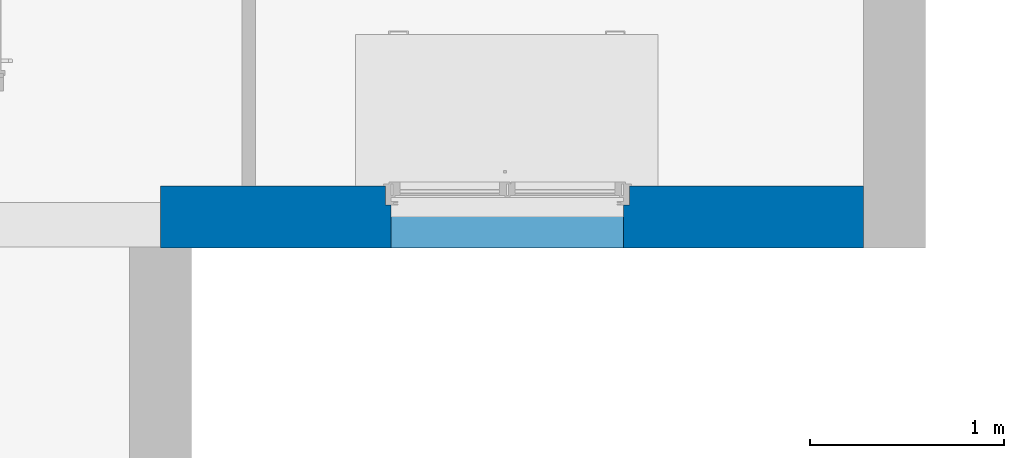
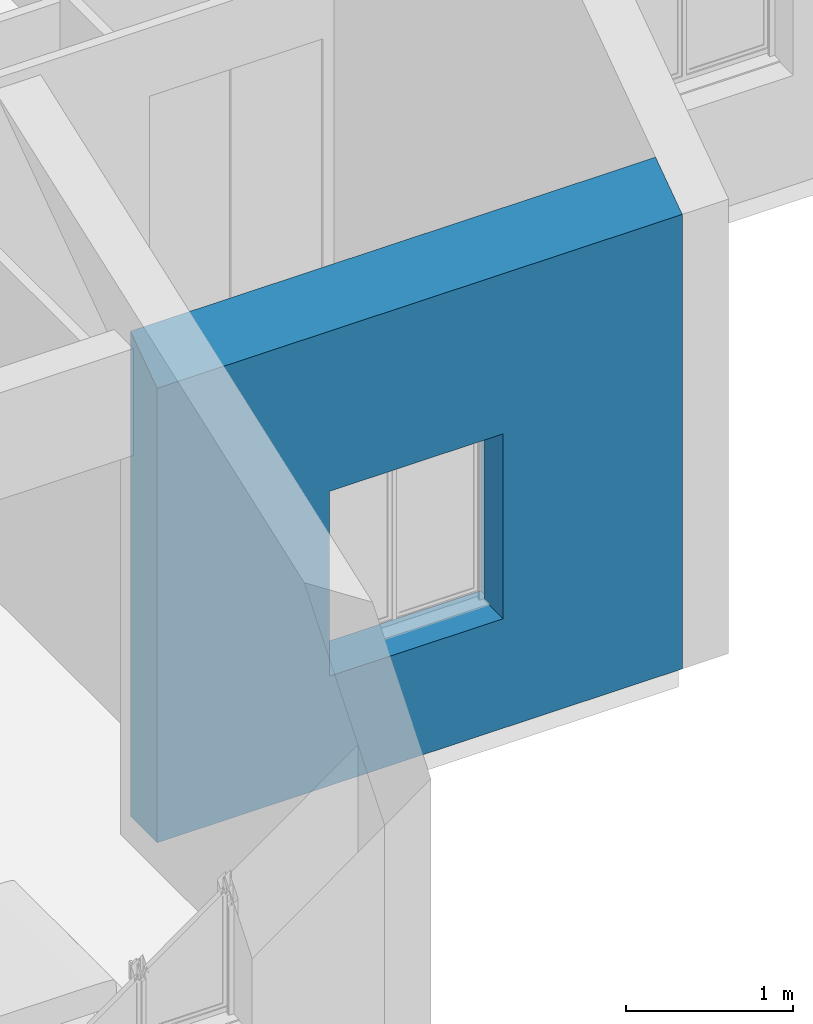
# One storey, part 15 of 61: 1 wall, 1 opening.
"""IFC2X3 building model written with IfcOpenShell, lengths in metres."""

from ifc_helpers import new_model, entity, si_unit, converted_unit, derived_unit, direction, frame, frame_2d, origin, place, context, subcontext, project, spatial, polyline, rectangle, extrude, clip, bounded_halfspace, faceted_brep, material, layer, layer_set, layer_usage, type_object, element, save


model = new_model("IFC2X3")

# Units and contexts
model_context = context("Model", 3, precision=1e-05, world=origin(), true_north=direction((6.12303176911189e-17, 1.0)))
body_context = subcontext(model_context, "Body", "Model", "MODEL_VIEW")
ifc_project = project(units=[si_unit("LENGTHUNIT", "METRE"), si_unit("AREAUNIT", "SQUARE_METRE"), si_unit("VOLUMEUNIT", "CUBIC_METRE"), converted_unit("PLANEANGLEUNIT", "DEGREE", entity("IfcRatioMeasure", 0.0174532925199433), si_unit("PLANEANGLEUNIT", "RADIAN"), dimensions=[0, 0, 0, 0, 0, 0, 0]), si_unit("MASSUNIT", "GRAM", prefix="KILO"), derived_unit("MASSDENSITYUNIT", [(si_unit("MASSUNIT", "GRAM", prefix="KILO"), 1), (si_unit("LENGTHUNIT", "METRE"), -3)]), si_unit("TIMEUNIT", "SECOND"), si_unit("FREQUENCYUNIT", "HERTZ"), si_unit("THERMODYNAMICTEMPERATUREUNIT", "DEGREE_CELSIUS"), derived_unit("THERMALTRANSMITTANCEUNIT", [(si_unit("MASSUNIT", "GRAM", prefix="KILO"), 1), (si_unit("THERMODYNAMICTEMPERATUREUNIT", "KELVIN"), -1), (si_unit("TIMEUNIT", "SECOND"), -3)]), derived_unit("VOLUMETRICFLOWRATEUNIT", [(si_unit("LENGTHUNIT", "METRE"), 3), (si_unit("TIMEUNIT", "SECOND"), -1)]), si_unit("ELECTRICCURRENTUNIT", "AMPERE"), si_unit("ELECTRICVOLTAGEUNIT", "VOLT"), si_unit("POWERUNIT", "WATT"), si_unit("FORCEUNIT", "NEWTON", prefix="KILO"), si_unit("ILLUMINANCEUNIT", "LUX"), si_unit("LUMINOUSFLUXUNIT", "LUMEN"), si_unit("LUMINOUSINTENSITYUNIT", "CANDELA"), derived_unit("USERDEFINED", [(si_unit("MASSUNIT", "GRAM", prefix="KILO"), -1), (si_unit("LENGTHUNIT", "METRE"), -2), (si_unit("TIMEUNIT", "SECOND"), 3), (si_unit("LUMINOUSFLUXUNIT", "LUMEN"), 1)]), derived_unit("LINEARVELOCITYUNIT", [(si_unit("LENGTHUNIT", "METRE"), 1), (si_unit("TIMEUNIT", "SECOND"), -1)]), si_unit("PRESSUREUNIT", "PASCAL"), derived_unit("USERDEFINED", [(si_unit("LENGTHUNIT", "METRE"), -2), (si_unit("MASSUNIT", "GRAM", prefix="KILO"), 1), (si_unit("TIMEUNIT", "SECOND"), -2)])], contexts=[model_context])

# Site, building, storey
site_placement = place(None, origin())
site = spatial("IfcSite", under=ifc_project, at=site_placement, Name="Surface", CompositionType="ELEMENT")
building_placement = place(site_placement, origin())
building = spatial("IfcBuilding", under=site, at=building_placement, CompositionType="ELEMENT")
storey_placement = place(building_placement, frame((0.0, 0.0, 2.82)))
storey = spatial("IfcBuildingStorey", under=building, at=storey_placement, Name="ETAGE", CompositionType="ELEMENT", Elevation=2.82)

# Wall, opening
ifc_material_1 = material(Name="Enduit blanc cassé2")
ifc_layer_1 = layer(ifc_material_1, 0.02)
ifc_material_2 = material(Name="Parpaing")
ifc_layer_2 = layer(ifc_material_2, 0.2)
ifc_material_3 = material(Name="Isolant")
ifc_layer_3 = layer(ifc_material_3, 0.1)
ifc_layer_set = layer_set([ifc_layer_1, ifc_layer_2, ifc_layer_3], Name="Mur de base:Ext. Parpaing 20 + Isolant 10 enduit blanc cassé")
ifc_layer_usage = layer_usage(ifc_layer_set, "AXIS2", "NEGATIVE", 0.16)
wall_type = type_object("IfcWallType", Name="Mur de base:Ext. Parpaing 20 + Isolant 10 enduit blanc cassé", PredefinedType="STANDARD", material=ifc_layer_set)
wall_placement = place(storey_placement, frame((75.962889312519, 80.0477566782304, 0.0), z_axis=(0.0, 0.0, 1.0), x_axis=(-1.0, 0.0, 0.0)))
wall = element("IfcWallStandardCase", 1, at=wall_placement, inside=storey, type_object=wall_type, material=ifc_layer_usage, Name="Mur de base:Ext. Parpaing 20 + Isolant 10 enduit blanc cassé", ObjectType="Mur de base:Ext. Parpaing 20 + Isolant 10 enduit blanc cassé", context=body_context, shape_type="Clipping", body=[
    clip(extrude(rectangle(XDim=3.62826294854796, YDim=0.319999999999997, at=frame_2d((1.81413147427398, -1.08246744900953e-15), x_axis=(-1.0, 0.0))), origin(), (0.0, 0.0, 1.0), 3.54406641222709), bounded_halfspace(frame((0.0, -0.159999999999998, 3.54406641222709), z_axis=(0.0, 0.573576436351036, 0.819152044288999), x_axis=(-1.0, 0.0, 0.0)), False, frame((0.0, -0.159999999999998, 3.54406641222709)), polyline([(0.0, 0.0), (3.62826294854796, 0.0), (3.62826294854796, 0.319999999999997), (0.0, 0.319999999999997), (0.0, 0.0)]))),
])
opening_placement = place(wall_placement, frame((2.47826294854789, 0.46000000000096, 0.799999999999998), z_axis=(0.0, 0.0, 1.0), x_axis=(-1.0, 0.0, 0.0)))
element("IfcOpeningElement", 2, at=opening_placement, cuts=wall, Name="Mur de base:Ext. Parpaing 20 + Isolant 10 enduit blanc cassé", ObjectType="Opening", context=body_context, shape_type="Brep", body=[
    faceted_brep([(0.0400000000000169, 0.720000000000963, 1.35), (0.0400000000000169, 0.620000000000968, 1.35), (1.24000000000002, 0.620000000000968, 1.35), (1.24000000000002, 0.720000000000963, 1.35), (0.0400000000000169, 0.0, 0.0), (0.0400000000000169, 0.520000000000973, 0.0), (0.0100000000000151, 0.520000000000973, 0.0), (0.0100000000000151, 0.620000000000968, 0.0), (0.0400000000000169, 0.620000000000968, 0.0), (0.0400000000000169, 0.720000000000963, 0.0), (1.24000000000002, 0.720000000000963, 0.0), (1.24000000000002, 0.620000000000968, 0.0), (1.27000000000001, 0.620000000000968, 0.0), (1.27000000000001, 0.520000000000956, 0.0), (1.24000000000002, 0.520000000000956, 0.0), (1.24000000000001, 0.0, 0.0), (0.0400000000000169, 0.0, 1.35), (1.24000000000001, 0.0, 1.35), (0.0400000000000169, 0.520000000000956, 1.35), (0.0100000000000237, 0.620000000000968, 1.38), (0.0, 0.620000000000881, 1.38000000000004), (0.0, 0.620000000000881, 1.59000000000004), (1.28000000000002, 0.620000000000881, 1.59000000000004), (1.28000000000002, 0.620000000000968, 1.38000000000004), (1.27000000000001, 0.620000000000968, 1.38), (1.27000000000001, 0.520000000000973, 1.38), (1.28000000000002, 0.520000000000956, 1.38000000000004), (1.28000000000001, 0.520000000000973, 1.59000000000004), (0.0, 0.520000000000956, 1.59000000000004), (0.0, 0.520000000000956, 1.38000000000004), (0.0100000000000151, 0.520000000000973, 1.38), (1.24000000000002, 0.520000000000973, 1.35)], [[[0, 1, 2, 3]], [[4, 5, 6, 7, 8, 9, 10, 11, 12, 13, 14, 15]], [[16, 4, 15, 17]], [[3, 2, 11, 10]], [[3, 10, 9, 0]], [[16, 18, 5, 4]], [[11, 2, 1, 8, 7, 19, 20, 21, 22, 23, 24, 12]], [[12, 24, 25, 13]], [[13, 25, 26, 27, 28, 29, 30, 6, 5, 18, 31, 14]], [[7, 6, 30, 19]], [[26, 23, 22, 27]], [[29, 28, 21, 20]], [[26, 25, 24, 23]], [[22, 21, 28, 27]], [[20, 19, 30, 29]], [[9, 8, 1, 0]], [[15, 14, 31, 17]], [[17, 31, 18, 16]]]),
])

save(model, "model.ifc")
